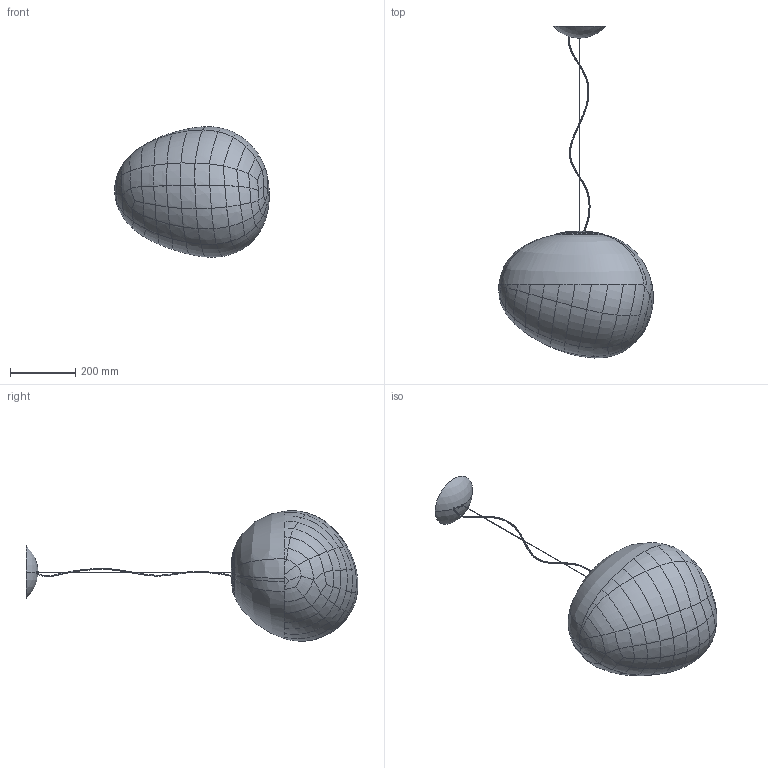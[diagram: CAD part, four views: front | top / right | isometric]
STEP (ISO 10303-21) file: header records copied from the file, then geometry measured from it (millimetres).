
FILE_DESCRIPTION (( 'STEP AP203' ), '1' );
FILE_NAME ('168_GRANDE_S_LD_3D.STEP', '2021-04-12T08:22:41', ( '' ), ( '' ), 'SwSTEP 2.0', 'SolidWorks 2021', '' );
FILE_SCHEMA (( 'CONFIG_CONTROL_DESIGN' ));
Products named in the file (1): 168_GRANDE_S_LD_3D
Bounding box: 474.62 x 1019.2 x 400.52 mm (x, y, z)
Volume: 2619717.3 mm3; surface area: 1203334.8 mm2
Topology: 4 solids, 4 shells, 2076 faces, 5057 edges, 2885 vertices
Faces by surface type: bspline 1077, cylinder 278, plane 269, torus 223, cone 131, sphere 98
Entity records: 465315 total; most frequent: CARTESIAN_POINT 425963, ORIENTED_EDGE 9820, DIRECTION 5966, EDGE_CURVE 4910, VERTEX_POINT 2869, AXIS2_PLACEMENT_3D 2636, B_SPLINE_CURVE_WITH_KNOTS 2414, EDGE_LOOP 2119
